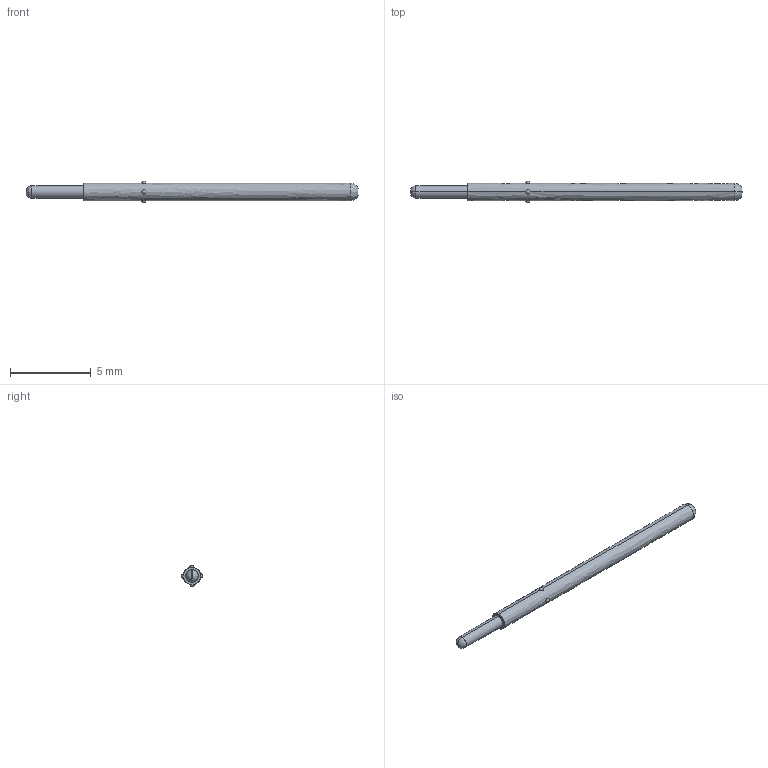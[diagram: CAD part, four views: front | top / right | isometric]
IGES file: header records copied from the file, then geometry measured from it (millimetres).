
Start section: SolidWorks IGES file using analytic representation for surfaces
Global section: file name: O:\PYLON\IGES FILES\P2663\P2663G-1R1S.IGS; native system: SolidWorks 2015; preprocessor: SolidWorks 2015; author: kgolden; date: 171019.102553; units: inch
Bounding box: 20.53 x 1.32 x 1.32 mm (x, y, z)
Surface area: 70.9 mm2 (no closed solid volume)
Topology: 0 solids, 0 shells, 21 faces, 236 edges, 220 vertices
Faces by surface type: revolution 14, bspline 7
